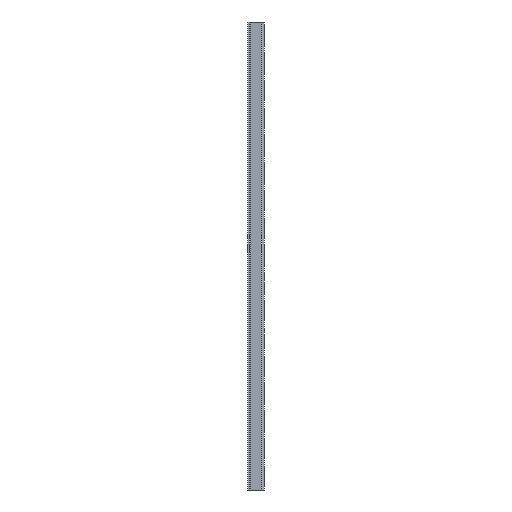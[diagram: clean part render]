
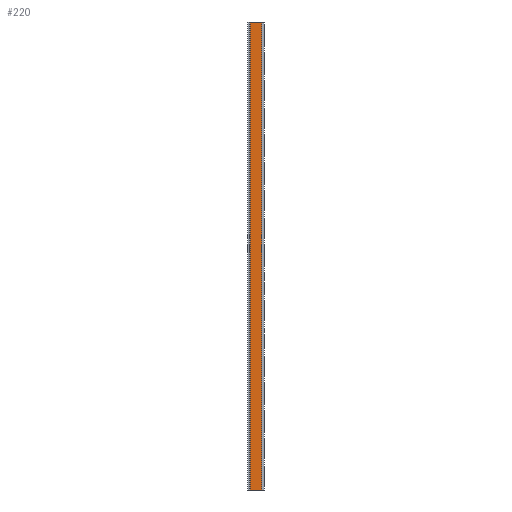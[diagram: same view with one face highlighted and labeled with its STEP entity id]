
A CAD part, left-side view. The second image highlights one B-rep face of the part: STEP entity #220.
In plain terms, the highlighted planar face has unit normal (-1, 0, 0).
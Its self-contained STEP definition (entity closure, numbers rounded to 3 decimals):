
#220=ADVANCED_FACE('',(#1138),#1140,.T.);
#1138=FACE_BOUND('',#1139,.T.);
#1139=EDGE_LOOP('',(#1894,#1895,#1896,#1897));
#1140=PLANE('',#1141);
#1141=AXIS2_PLACEMENT_3D('',#1142,#1143,#1144);
#1142=CARTESIAN_POINT('',(-13.2,0.,425.));
#1143=DIRECTION('',(-1.,0.,0.));
#1144=DIRECTION('',(0.,0.,1.));
#1894=ORIENTED_EDGE('',*,*,#2454,.T.);
#1895=ORIENTED_EDGE('',*,*,#2455,.F.);
#1896=ORIENTED_EDGE('',*,*,#2456,.F.);
#1897=ORIENTED_EDGE('',*,*,#2457,.F.);
#2454=EDGE_CURVE('',#2806,#2807,#2808,.T.);
#2455=EDGE_CURVE('',#2809,#2807,#2810,.T.);
#2456=EDGE_CURVE('',#2811,#2809,#2812,.T.);
#2457=EDGE_CURVE('',#2806,#2811,#2813,.T.);
#2806=VERTEX_POINT('',#3440);
#2807=VERTEX_POINT('',#3441);
#2808=LINE('',#3442,#3443);
#2809=VERTEX_POINT('',#3445);
#2810=LINE('',#3446,#3447);
#2811=VERTEX_POINT('',#3449);
#2812=LINE('',#3450,#3451);
#2813=LINE('',#3453,#3454);
#3440=CARTESIAN_POINT('',(-13.2,2.4,425.));
#3441=CARTESIAN_POINT('',(-13.2,12.6,425.));
#3442=CARTESIAN_POINT('',(-13.2,2.4,425.));
#3443=VECTOR('',#3444,1.);
#3444=DIRECTION('',(0.,1.,0.));
#3445=CARTESIAN_POINT('',(-13.2,12.6,0.));
#3446=CARTESIAN_POINT('',(-13.2,12.6,0.));
#3447=VECTOR('',#3448,1.);
#3448=DIRECTION('',(0.,0.,1.));
#3449=CARTESIAN_POINT('',(-13.2,2.4,0.));
#3450=CARTESIAN_POINT('',(-13.2,2.4,0.));
#3451=VECTOR('',#3452,1.);
#3452=DIRECTION('',(0.,1.,0.));
#3453=CARTESIAN_POINT('',(-13.2,2.4,425.));
#3454=VECTOR('',#3455,1.);
#3455=DIRECTION('',(0.,0.,-1.));
